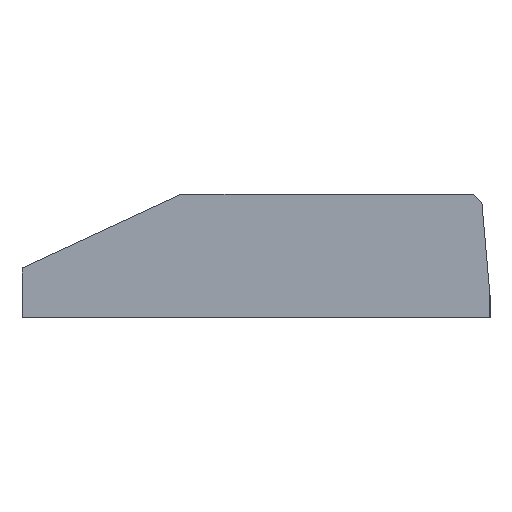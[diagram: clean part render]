
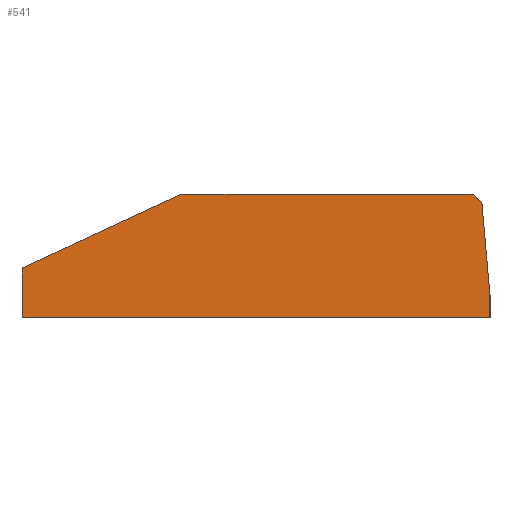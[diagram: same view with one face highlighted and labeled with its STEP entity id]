
A CAD part, left-side view. The second image highlights one B-rep face of the part: STEP entity #541.
In plain terms, the highlighted planar face has unit normal (-1, 0, 0).
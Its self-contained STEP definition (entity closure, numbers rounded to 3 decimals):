
#541=ADVANCED_FACE('',(#661),#601,.T.);
#601=PLANE('',#1736);
#661=FACE_OUTER_BOUND('',#715,.T.);
#715=EDGE_LOOP('',(#793,#794,#795,#796,#797,#798,#799));
#793=ORIENTED_EDGE('',*,*,#1270,.T.);
#794=ORIENTED_EDGE('',*,*,#1271,.T.);
#795=ORIENTED_EDGE('',*,*,#1267,.T.);
#796=ORIENTED_EDGE('',*,*,#1264,.T.);
#797=ORIENTED_EDGE('',*,*,#1261,.T.);
#798=ORIENTED_EDGE('',*,*,#1257,.T.);
#799=ORIENTED_EDGE('',*,*,#1272,.T.);
#1125=VERTEX_POINT('',#2138);
#1126=VERTEX_POINT('',#2139);
#1129=VERTEX_POINT('',#2147);
#1131=VERTEX_POINT('',#2153);
#1133=VERTEX_POINT('',#2159);
#1135=VERTEX_POINT('',#2165);
#1136=VERTEX_POINT('',#2166);
#1257=EDGE_CURVE('',#1125,#1126,#1431,.T.);
#1261=EDGE_CURVE('',#1129,#1125,#1435,.T.);
#1264=EDGE_CURVE('',#1131,#1129,#1438,.T.);
#1267=EDGE_CURVE('',#1133,#1131,#1441,.T.);
#1270=EDGE_CURVE('',#1135,#1136,#1444,.T.);
#1271=EDGE_CURVE('',#1136,#1133,#1445,.T.);
#1272=EDGE_CURVE('',#1126,#1135,#1446,.T.);
#1431=LINE('',#2137,#1581);
#1435=LINE('',#2146,#1585);
#1438=LINE('',#2152,#1588);
#1441=LINE('',#2158,#1591);
#1444=LINE('',#2164,#1594);
#1445=LINE('',#2167,#1595);
#1446=LINE('',#2168,#1596);
#1581=VECTOR('',#1818,1.);
#1585=VECTOR('',#1824,1.);
#1588=VECTOR('',#1829,1.);
#1591=VECTOR('',#1834,1.);
#1594=VECTOR('',#1839,1.);
#1595=VECTOR('',#1840,1.);
#1596=VECTOR('',#1841,1.);
#1736=AXIS2_PLACEMENT_3D('',#2169,#1842,#1843);
#1818=DIRECTION('',(0.,0.087,0.996));
#1824=DIRECTION('',(0.,0.,1.));
#1829=DIRECTION('',(0.,-1.,0.));
#1834=DIRECTION('',(0.,0.,-1.));
#1839=DIRECTION('',(0.,1.,0.));
#1840=DIRECTION('',(0.,0.908,-0.42));
#1841=DIRECTION('',(0.,0.737,0.676));
#1842=DIRECTION('',(-1.,0.,0.));
#1843=DIRECTION('',(0.,0.,1.));
#2137=CARTESIAN_POINT('',(-14.75,-8.75,4.481));
#2138=CARTESIAN_POINT('',(-14.75,-8.75,4.481));
#2139=CARTESIAN_POINT('',(-14.75,-7.767,15.715));
#2146=CARTESIAN_POINT('',(-14.75,-8.75,1.8));
#2147=CARTESIAN_POINT('',(-14.75,-8.75,1.8));
#2152=CARTESIAN_POINT('',(-14.75,47.68,1.8));
#2153=CARTESIAN_POINT('',(-14.75,47.68,1.8));
#2158=CARTESIAN_POINT('',(-14.75,47.68,7.784));
#2159=CARTESIAN_POINT('',(-14.75,47.68,7.784));
#2164=CARTESIAN_POINT('',(-14.75,-6.747,16.65));
#2165=CARTESIAN_POINT('',(-14.75,-6.747,16.65));
#2166=CARTESIAN_POINT('',(-14.75,28.516,16.65));
#2167=CARTESIAN_POINT('',(-14.75,28.516,16.65));
#2168=CARTESIAN_POINT('',(-14.75,-7.767,15.715));
#2169=CARTESIAN_POINT('',(-14.75,47.68,16.65));
